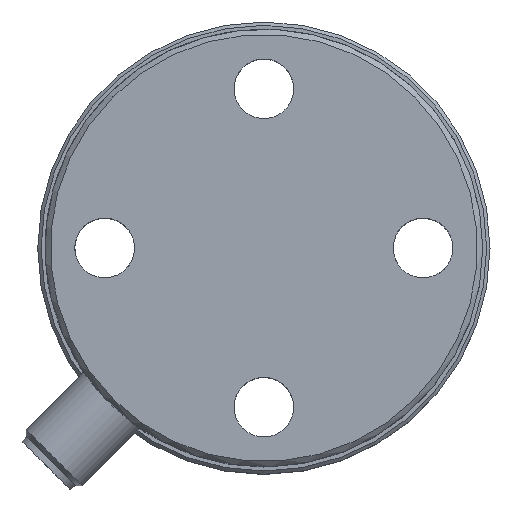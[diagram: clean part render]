
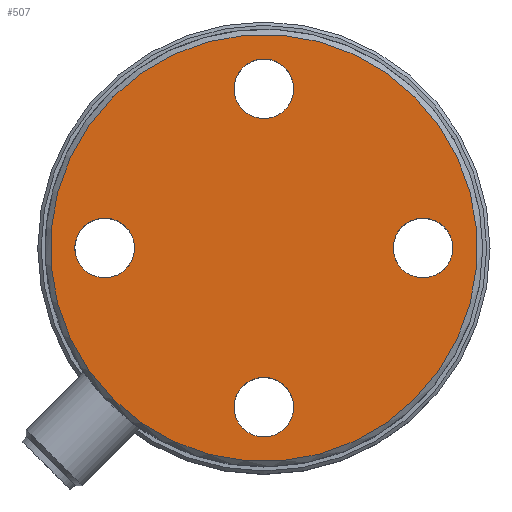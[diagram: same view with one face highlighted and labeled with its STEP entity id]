
A CAD part, top view. The second image highlights one B-rep face of the part: STEP entity #507.
In plain terms, the highlighted planar face has unit normal (0, 0, 1).
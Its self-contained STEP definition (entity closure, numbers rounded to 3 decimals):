
#213=CARTESIAN_POINT('',(3.182,20.818,48.));
#214=VERTEX_POINT('',#213);
#215=CARTESIAN_POINT('',(0.,24.,48.));
#216=DIRECTION('',(0.,0.,-1.0));
#217=DIRECTION('',(-0.707,0.707,0.));
#218=AXIS2_PLACEMENT_3D('',#215,#216,#217);
#219=CIRCLE('',#218,4.5);
#220=EDGE_CURVE('',#214,#214,#219,.T.);
#262=CARTESIAN_POINT('',(20.818,-3.182,48.));
#263=VERTEX_POINT('',#262);
#264=CARTESIAN_POINT('',(24.,0.,48.));
#265=DIRECTION('',(0.,0.,-1.0));
#266=DIRECTION('',(0.707,0.707,0.));
#267=AXIS2_PLACEMENT_3D('',#264,#265,#266);
#268=CIRCLE('',#267,4.5);
#269=EDGE_CURVE('',#263,#263,#268,.T.);
#311=CARTESIAN_POINT('',(-3.182,-20.818,48.));
#312=VERTEX_POINT('',#311);
#313=CARTESIAN_POINT('',(0.,-24.,48.));
#314=DIRECTION('',(0.,0.,-1.0));
#315=DIRECTION('',(0.707,-0.707,0.));
#316=AXIS2_PLACEMENT_3D('',#313,#314,#315);
#317=CIRCLE('',#316,4.5);
#318=EDGE_CURVE('',#312,#312,#317,.T.);
#360=CARTESIAN_POINT('',(-20.818,3.182,48.));
#361=VERTEX_POINT('',#360);
#362=CARTESIAN_POINT('',(-24.,0.,48.));
#363=DIRECTION('',(0.,0.,-1.0));
#364=DIRECTION('',(-0.707,-0.707,0.));
#365=AXIS2_PLACEMENT_3D('',#362,#363,#364);
#366=CIRCLE('',#365,4.5);
#367=EDGE_CURVE('',#361,#361,#366,.T.);
#479=CARTESIAN_POINT('',(0.,0.,48.));
#480=DIRECTION('',(0.0,0.0,1.0));
#481=DIRECTION('',(0.707,-0.707,0.0));
#482=AXIS2_PLACEMENT_3D('',#479,#480,#481);
#483=PLANE('',#482);
#484=CARTESIAN_POINT('',(-22.769,22.769,48.));
#485=VERTEX_POINT('',#484);
#486=CARTESIAN_POINT('',(0.,0.,48.));
#487=DIRECTION('',(0.,0.,-1.0));
#488=DIRECTION('',(0.707,-0.707,0.));
#489=AXIS2_PLACEMENT_3D('',#486,#487,#488);
#490=CIRCLE('',#489,32.2);
#491=EDGE_CURVE('',#485,#485,#490,.T.);
#492=ORIENTED_EDGE('',*,*,#491,.F.);
#493=EDGE_LOOP('',(#492));
#494=FACE_OUTER_BOUND('',#493,.T.);
#495=ORIENTED_EDGE('',*,*,#220,.T.);
#496=EDGE_LOOP('',(#495));
#497=FACE_BOUND('',#496,.T.);
#498=ORIENTED_EDGE('',*,*,#269,.T.);
#499=EDGE_LOOP('',(#498));
#500=FACE_BOUND('',#499,.T.);
#501=ORIENTED_EDGE('',*,*,#318,.T.);
#502=EDGE_LOOP('',(#501));
#503=FACE_BOUND('',#502,.T.);
#504=ORIENTED_EDGE('',*,*,#367,.T.);
#505=EDGE_LOOP('',(#504));
#506=FACE_BOUND('',#505,.T.);
#507=ADVANCED_FACE('',(#494,#497,#500,#503,#506),#483,.T.);
